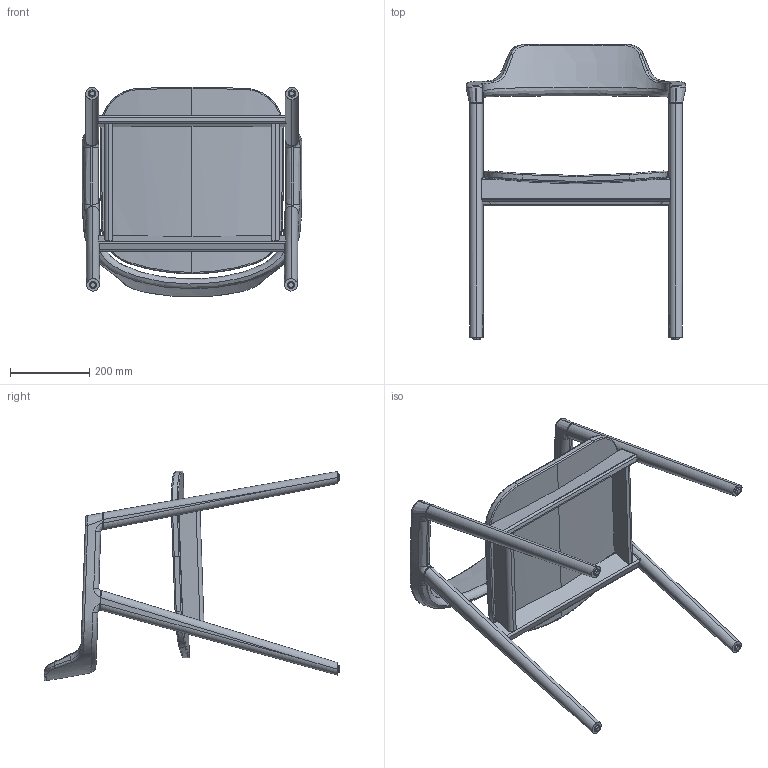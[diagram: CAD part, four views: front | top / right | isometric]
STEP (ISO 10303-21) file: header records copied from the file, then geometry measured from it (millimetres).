
FILE_DESCRIPTION (( 'STEP AP214' ), '1' );
FILE_NAME ('HIVEアームチェアー板CG.STEP', '2026-03-25T08:25:15', ( '' ), ( '' ), 'SwSTEP 2.0', 'SolidWorks 2025', '' );
FILE_SCHEMA (( 'AUTOMOTIVE_DESIGN' ));
Length unit declared in the file: millimetre
Products named in the file (1): HIVEアームチェアー板CG
Bounding box: 553.67 x 744.04 x 528.43 mm (x, y, z)
Volume: 9758140.8 mm3; surface area: 1155465.8 mm2
Topology: 14 solids, 14 shells, 373 faces, 891 edges, 546 vertices
Faces by surface type: cylinder 129, bspline 128, plane 100, cone 8, torus 8
Entity records: 21934 total; most frequent: CARTESIAN_POINT 14355, ORIENTED_EDGE 1774, DIRECTION 1251, EDGE_CURVE 887, VERTEX_POINT 546, AXIS2_PLACEMENT_3D 484, EDGE_LOOP 377, ADVANCED_FACE 373
